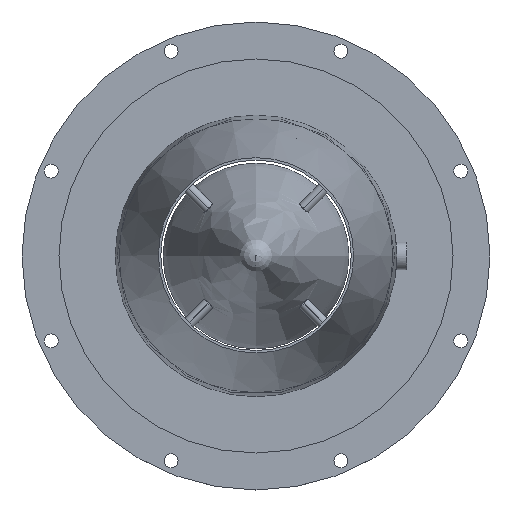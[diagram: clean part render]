
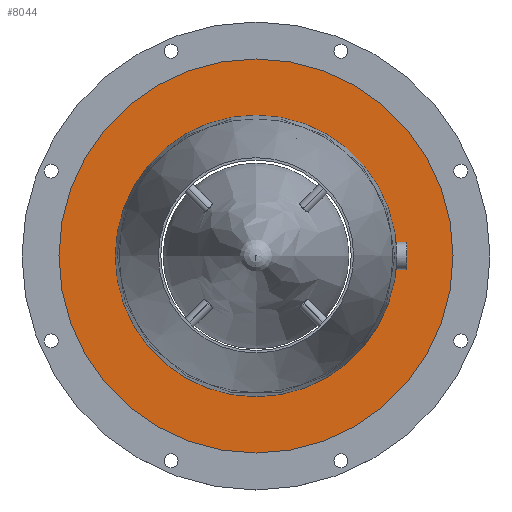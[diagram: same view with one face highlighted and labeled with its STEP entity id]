
A CAD part, top view. The second image highlights one B-rep face of the part: STEP entity #8044.
In plain terms, the highlighted planar face has unit normal (0, 0, 1).
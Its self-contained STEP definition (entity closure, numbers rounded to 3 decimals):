
#6618 = CYLINDRICAL_SURFACE('',#6619,64.);
#6619 = AXIS2_PLACEMENT_3D('',#6620,#6621,#6622);
#6620 = CARTESIAN_POINT('',(0.,0.,206.5)
  );
#6621 = DIRECTION('',(-0.,-0.,-1.));
#6622 = DIRECTION('',(1.,0.,0.));
#6691 = CYLINDRICAL_SURFACE('',#6692,45.703);
#6692 = AXIS2_PLACEMENT_3D('',#6693,#6694,#6695);
#6693 = CARTESIAN_POINT('',(0.,0.,240.));
#6694 = DIRECTION('',(-0.,-0.,-1.));
#6695 = DIRECTION('',(1.,0.,0.));
#7803 = EDGE_CURVE('',#7804,#7804,#7806,.T.);
#7804 = VERTEX_POINT('',#7805);
#7805 = CARTESIAN_POINT('',(64.,0.,207.7));
#7806 = SURFACE_CURVE('',#7807,(#7812,#7819),.PCURVE_S1.);
#7807 = CIRCLE('',#7808,64.);
#7808 = AXIS2_PLACEMENT_3D('',#7809,#7810,#7811);
#7809 = CARTESIAN_POINT('',(0.,0.,207.7)
  );
#7810 = DIRECTION('',(0.,0.,-1.));
#7811 = DIRECTION('',(1.,0.,0.));
#7812 = PCURVE('',#6618,#7813);
#7813 = DEFINITIONAL_REPRESENTATION('',(#7814),#7818);
#7814 = LINE('',#7815,#7816);
#7815 = CARTESIAN_POINT('',(-6.283,-1.2));
#7816 = VECTOR('',#7817,1.);
#7817 = DIRECTION('',(1.,-0.));
#7818 = ( GEOMETRIC_REPRESENTATION_CONTEXT(2) 
PARAMETRIC_REPRESENTATION_CONTEXT() REPRESENTATION_CONTEXT('2D SPACE',''
  ) );
#7819 = PCURVE('',#7820,#7825);
#7820 = PLANE('',#7821);
#7821 = AXIS2_PLACEMENT_3D('',#7822,#7823,#7824);
#7822 = CARTESIAN_POINT('',(0.,0.,207.7
    ));
#7823 = DIRECTION('',(0.,0.,1.));
#7824 = DIRECTION('',(1.,0.,-0.));
#7825 = DEFINITIONAL_REPRESENTATION('',(#7826),#7834);
#7826 = ( BOUNDED_CURVE() B_SPLINE_CURVE(2,(#7827,#7828,#7829,#7830,
#7831,#7832,#7833),.UNSPECIFIED.,.T.,.F.) B_SPLINE_CURVE_WITH_KNOTS((1,2
    ,2,2,2,1),(-2.094,0.,2.094,4.189,
6.283,8.378),.UNSPECIFIED.) CURVE() 
GEOMETRIC_REPRESENTATION_ITEM() RATIONAL_B_SPLINE_CURVE((1.,0.5,1.,0.5,
1.,0.5,1.)) REPRESENTATION_ITEM('') );
#7827 = CARTESIAN_POINT('',(64.,0.));
#7828 = CARTESIAN_POINT('',(64.,-110.851));
#7829 = CARTESIAN_POINT('',(-32.,-55.426));
#7830 = CARTESIAN_POINT('',(-128.,0.));
#7831 = CARTESIAN_POINT('',(-32.,55.426));
#7832 = CARTESIAN_POINT('',(64.,110.851));
#7833 = CARTESIAN_POINT('',(64.,0.));
#7834 = ( GEOMETRIC_REPRESENTATION_CONTEXT(2) 
PARAMETRIC_REPRESENTATION_CONTEXT() REPRESENTATION_CONTEXT('2D SPACE',''
  ) );
#7909 = VERTEX_POINT('',#7910);
#7910 = CARTESIAN_POINT('',(45.703,0.,207.7));
#7931 = EDGE_CURVE('',#7909,#7909,#7932,.T.);
#7932 = SURFACE_CURVE('',#7933,(#7938,#7945),.PCURVE_S1.);
#7933 = CIRCLE('',#7934,45.703);
#7934 = AXIS2_PLACEMENT_3D('',#7935,#7936,#7937);
#7935 = CARTESIAN_POINT('',(0.,0.,207.7));
#7936 = DIRECTION('',(0.,0.,-1.));
#7937 = DIRECTION('',(1.,0.,0.));
#7938 = PCURVE('',#6691,#7939);
#7939 = DEFINITIONAL_REPRESENTATION('',(#7940),#7944);
#7940 = LINE('',#7941,#7942);
#7941 = CARTESIAN_POINT('',(-6.283,32.3));
#7942 = VECTOR('',#7943,1.);
#7943 = DIRECTION('',(1.,-0.));
#7944 = ( GEOMETRIC_REPRESENTATION_CONTEXT(2) 
PARAMETRIC_REPRESENTATION_CONTEXT() REPRESENTATION_CONTEXT('2D SPACE',''
  ) );
#7945 = PCURVE('',#7820,#7946);
#7946 = DEFINITIONAL_REPRESENTATION('',(#7947),#7955);
#7947 = ( BOUNDED_CURVE() B_SPLINE_CURVE(2,(#7948,#7949,#7950,#7951,
#7952,#7953,#7954),.UNSPECIFIED.,.T.,.F.) B_SPLINE_CURVE_WITH_KNOTS((1,2
    ,2,2,2,1),(-2.094,0.,2.094,4.189,
6.283,8.378),.UNSPECIFIED.) CURVE() 
GEOMETRIC_REPRESENTATION_ITEM() RATIONAL_B_SPLINE_CURVE((1.,0.5,1.,0.5,
1.,0.5,1.)) REPRESENTATION_ITEM('') );
#7948 = CARTESIAN_POINT('',(45.703,0.));
#7949 = CARTESIAN_POINT('',(45.703,-79.16));
#7950 = CARTESIAN_POINT('',(-22.852,-39.58));
#7951 = CARTESIAN_POINT('',(-91.406,0.));
#7952 = CARTESIAN_POINT('',(-22.852,39.58));
#7953 = CARTESIAN_POINT('',(45.703,79.16));
#7954 = CARTESIAN_POINT('',(45.703,0.));
#7955 = ( GEOMETRIC_REPRESENTATION_CONTEXT(2) 
PARAMETRIC_REPRESENTATION_CONTEXT() REPRESENTATION_CONTEXT('2D SPACE',''
  ) );
#8044 = ADVANCED_FACE('',(#8045,#8048),#7820,.T.);
#8045 = FACE_BOUND('',#8046,.T.);
#8046 = EDGE_LOOP('',(#8047));
#8047 = ORIENTED_EDGE('',*,*,#7803,.F.);
#8048 = FACE_BOUND('',#8049,.T.);
#8049 = EDGE_LOOP('',(#8050));
#8050 = ORIENTED_EDGE('',*,*,#7931,.T.);
